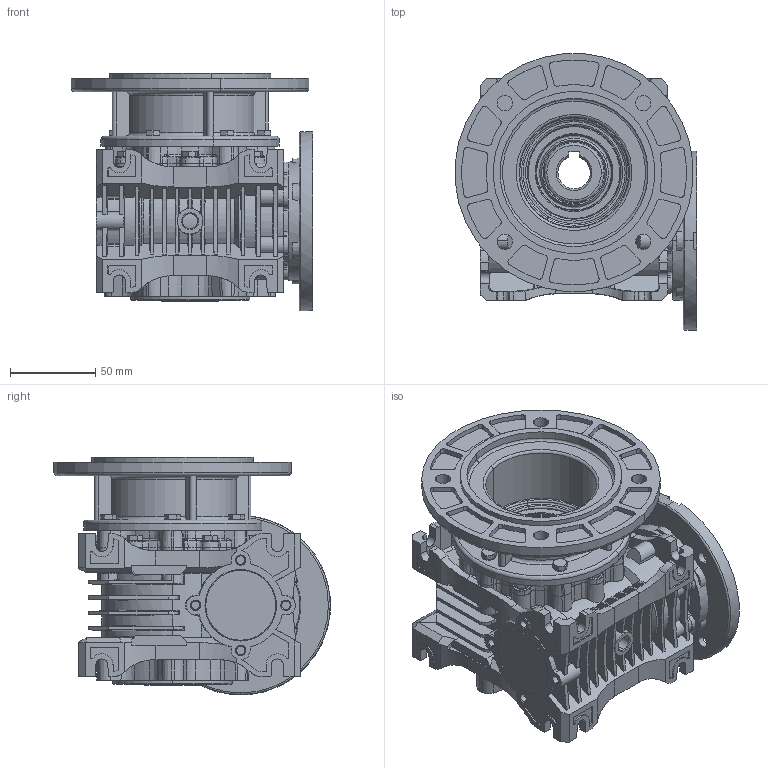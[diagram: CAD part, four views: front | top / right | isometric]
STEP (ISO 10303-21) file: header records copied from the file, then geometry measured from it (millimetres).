
FILE_DESCRIPTION (( 'STEP AP203' ), '1' );
FILE_NAME ('MR-40_105-14-K140_2-3D.STEP', '2023-06-02T09:08:18', ( '' ), ( '' ), 'SwSTEP 2.0', 'SolidWorks 2022', '' );
FILE_SCHEMA (( 'CONFIG_CONTROL_DESIGN' ));
Products named in the file (1): MR-40_105-14-K140_2-3D
Bounding box: 141.73 x 162.25 x 139.65 mm (x, y, z)
Volume: 951711.6 mm3; surface area: 219568 mm2
Topology: 1 solids, 37 shells, 3254 faces, 8337 edges, 5220 vertices
Faces by surface type: plane 1186, cone 850, cylinder 546, bspline 320, torus 316, sphere 36
Entity records: 109136 total; most frequent: CARTESIAN_POINT 32982, ORIENTED_EDGE 16574, DIRECTION 15568, EDGE_CURVE 8287, AXIS2_PLACEMENT_3D 6101, VERTEX_POINT 5220, EDGE_LOOP 3409, LINE 3366
